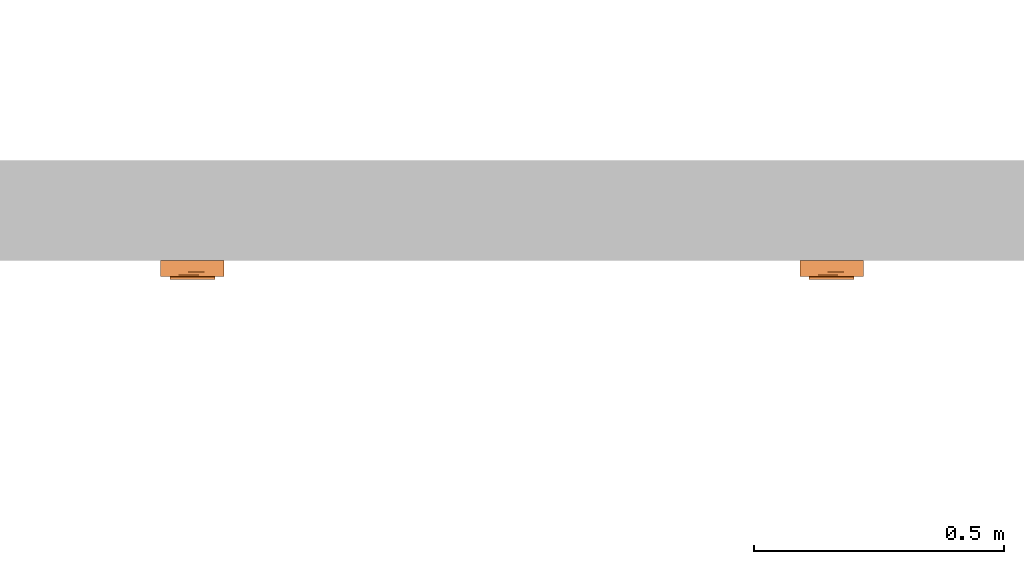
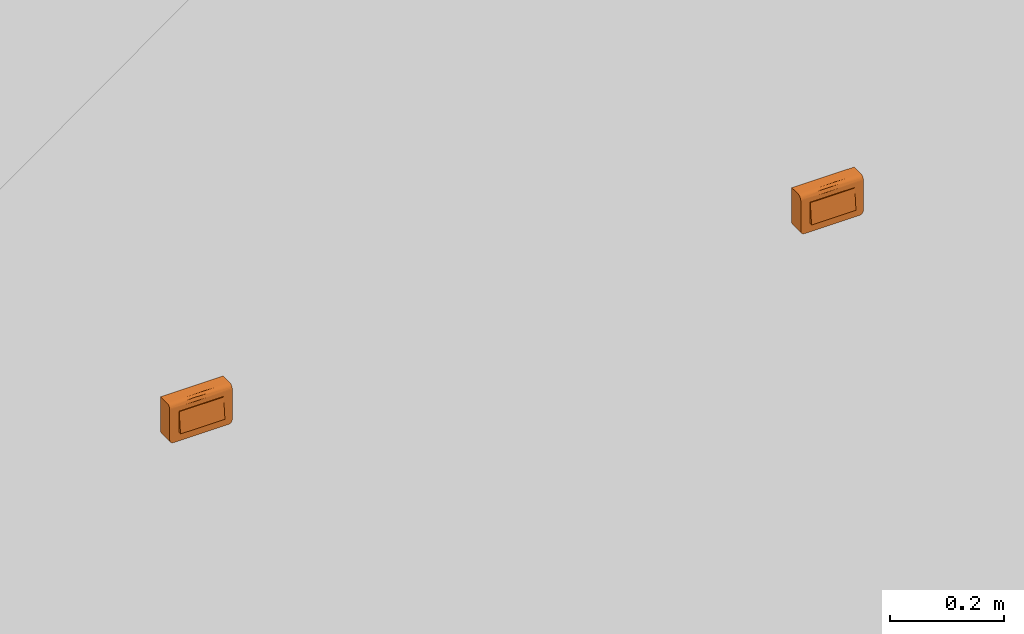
# One storey, part 138 of 197: 2 proxies.
"""IFC2X3 building model written with IfcOpenShell, lengths in metres."""

import ifcopenshell
import ifcopenshell.guid

model = None  # the IFC model being written
_history = None  # IfcOwnerHistory: only IFC2X3 demands one
_inside = {}  # id of a spatial element -> (the spatial element, [elements in it])
_under = {}  # id of a project, library or spatial element -> (it, [spatial elements below it])
_declared = {}  # id of a project -> (the project, [libraries it declares])
_typed = {}  # id of a type object -> (the type object, [elements of that type])
_made_of = {}  # id of a material, layer set ... -> (it, [elements and type objects made of it])


def new_model(schema):
    """Start an empty IFC model of exactly this schema.

    Asked for "IFC4X3", IfcOpenShell would pick the latest addendum, in which some entities
    have other attributes; the version numbers below select the first issue.
    IFC2X3 requires an IfcOwnerHistory on every rooted entity: one is made here for all.
    """
    global model, _history
    if schema == "IFC4X3":
        model = ifcopenshell.file(schema_version=(4, 3, 0, 0))
    else:
        model = ifcopenshell.file(schema=schema)
    _inside.clear()
    _under.clear()
    _declared.clear()
    _typed.clear()
    _made_of.clear()
    _history = None
    if model.schema == "IFC2X3":
        org = make("IfcOrganization", Name="unknown")
        user = make(
            "IfcPersonAndOrganization",
            ThePerson=make("IfcPerson", FamilyName="unknown"),
            TheOrganization=org,
        )
        app = make(
            "IfcApplication",
            ApplicationDeveloper=org,
            Version="unknown",
            ApplicationFullName="unknown",
            ApplicationIdentifier="unknown",
        )
        _history = make(
            "IfcOwnerHistory",
            OwningUser=user,
            OwningApplication=app,
            ChangeAction="ADDED",
            CreationDate=0,
        )
    return model


def make(cls, **values):
    """One entity of the class cls with the attributes given. An attribute that is None is left unset."""
    return model.create_entity(
        cls, **{name: value for name, value in values.items() if value is not None}
    )


def entity(cls, *values):
    """Any entity or typed value of the class cls, its attributes in the order of the schema. None: left unset."""
    e = model.create_entity(cls)
    for i, value in enumerate(values):
        if value is not None:
            e[i] = value
    return e


def rooted(cls, **values):
    """An entity with a GlobalId (a new one), such as an element, a storey or a relation."""
    return make(cls, GlobalId=ifcopenshell.guid.new(), OwnerHistory=_history, **values)


def si_unit(unit_type, name, prefix=None):
    """IfcSIUnit, for example si_unit("LENGTHUNIT", "METRE", prefix="MILLI")."""
    return make("IfcSIUnit", UnitType=unit_type, Prefix=prefix, Name=name)


def converted_unit(unit_type, name, factor, base, dimensions=None, offset=None):
    """IfcConversionBasedUnit, such as the inch: factor (a typed value) times the base unit."""
    return make(
        "IfcConversionBasedUnit"
        if offset is None
        else "IfcConversionBasedUnitWithOffset",
        ConversionOffset=offset,
        Dimensions=None
        if dimensions is None
        else entity("IfcDimensionalExponents", *dimensions),
        UnitType=unit_type,
        Name=name,
        ConversionFactor=make(
            "IfcMeasureWithUnit", ValueComponent=factor, UnitComponent=base
        ),
    )


def assignment(units):
    """IfcUnitAssignment: the units of a project."""
    return None if units is None else make("IfcUnitAssignment", Units=units)


def point(xyz):
    """IfcCartesianPoint."""
    return None if xyz is None else make("IfcCartesianPoint", Coordinates=xyz)


def direction(xyz):
    """IfcDirection."""
    return None if xyz is None else make("IfcDirection", DirectionRatios=xyz)


def frame(location, z_axis=None, x_axis=None):
    """IfcAxis2Placement3D, a coordinate frame: its origin and axes. An axis left out is left unset."""
    return make(
        "IfcAxis2Placement3D",
        Location=point(location),
        Axis=direction(z_axis),
        RefDirection=direction(x_axis),
    )


def origin():
    """The frame at (0, 0, 0) with its axes left unset."""
    return frame((0.0, 0.0, 0.0))


def place(relative_to, where):
    """IfcLocalPlacement: puts the frame where relative to a parent placement (None: the world)."""
    return make(
        "IfcLocalPlacement", PlacementRelTo=relative_to, RelativePlacement=where
    )


def context(
    kind, dimensions, precision=None, world=None, true_north=None, identifier=None
):
    """IfcGeometricRepresentationContext, for example the 3D "Model" context."""
    return make(
        "IfcGeometricRepresentationContext",
        ContextIdentifier=identifier,
        ContextType=kind,
        CoordinateSpaceDimension=dimensions,
        Precision=precision,
        WorldCoordinateSystem=world,
        TrueNorth=true_north,
    )


def subcontext(parent, identifier, kind, view, scale=None):
    """IfcGeometricRepresentationSubContext, for example "Body" below "Model"."""
    return make(
        "IfcGeometricRepresentationSubContext",
        ContextIdentifier=identifier,
        ContextType=kind,
        ParentContext=parent,
        TargetScale=scale,
        TargetView=view,
    )


def project(units=None, contexts=None):
    """IfcProject with its units and contexts."""
    return rooted(
        "IfcProject",
        Name="project",
        RepresentationContexts=contexts,
        UnitsInContext=assignment(units),
    )


def spatial(cls, under=None, at=None, **own):
    """A site, building, storey or space (cls), placed at a placement, below another one or the project."""
    s = rooted(cls, ObjectPlacement=at, **own)
    if under is not None:
        _under.setdefault(under.id(), (under, []))[1].append(s)
    return s


def faces_of(points, faces, orient=None, outer=None):
    """IfcFace entities. A face is a list of loops; a loop is a list of indices into points, from 0.

    orient and outer hold one flag for each loop. By default every Orientation is true, the
    first loop of a face is its IfcFaceOuterBound and the others are IfcFaceBound.
    """
    made = []
    for i, loops in enumerate(faces):
        bounds = []
        for j, loop in enumerate(loops):
            is_outer = j == 0 if outer is None else outer[i][j]
            bounds.append(
                make(
                    "IfcFaceOuterBound" if is_outer else "IfcFaceBound",
                    Bound=make("IfcPolyLoop", Polygon=[points[k] for k in loop]),
                    Orientation=True if orient is None else orient[i][j],
                )
            )
        made.append(make("IfcFace", Bounds=bounds))
    return made


def faceted_brep(points, faces, orient=None, outer=None, voids=None):
    """IfcFacetedBrep: a solid bounded by flat faces; with voids (closed shells), ...WithVoids."""
    shared = [point(p) for p in points]
    hull = make("IfcClosedShell", CfsFaces=faces_of(shared, faces, orient, outer))
    if voids is None:
        return make("IfcFacetedBrep", Outer=hull)
    return make(
        "IfcFacetedBrepWithVoids",
        Outer=hull,
        Voids=[
            make(cls, CfsFaces=faces_of(shared, fs, o, b)) for cls, fs, o, b in voids
        ],
    )


def shape(context_of_items, identifier, shape_type, items):
    """IfcShapeRepresentation: the items that make up one representation, for example the "Body"."""
    return make(
        "IfcShapeRepresentation",
        ContextOfItems=context_of_items,
        RepresentationIdentifier=identifier,
        RepresentationType=shape_type,
        Items=items,
    )


def source(mapping_origin, context_of_items, identifier, shape_type, items):
    """IfcRepresentationMap: a shape defined once, which mapped items show again and again."""
    return make(
        "IfcRepresentationMap",
        MappingOrigin=mapping_origin,
        MappedRepresentation=shape(context_of_items, identifier, shape_type, items),
    )


def transform(
    local_origin,
    x_axis=None,
    y_axis=None,
    z_axis=None,
    scale=None,
    scale2=None,
    scale3=None,
    uniform=True,
):
    """IfcCartesianTransformationOperator3D, or its non-uniform kind. x_axis, y_axis, z_axis: its Axis1, 2, 3."""
    if uniform:
        return make(
            "IfcCartesianTransformationOperator3D",
            Axis1=direction(x_axis),
            Axis2=direction(y_axis),
            LocalOrigin=point(local_origin),
            Scale=scale,
            Axis3=direction(z_axis),
        )
    return make(
        "IfcCartesianTransformationOperator3DnonUniform",
        Axis1=direction(x_axis),
        Axis2=direction(y_axis),
        LocalOrigin=point(local_origin),
        Scale=scale,
        Axis3=direction(z_axis),
        Scale2=scale2,
        Scale3=scale3,
    )


def mapped(mapping_source, mapping_target):
    """IfcMappedItem: shows the shape of a source again, moved by a transform."""
    return make(
        "IfcMappedItem", MappingSource=mapping_source, MappingTarget=mapping_target
    )


def material(Name=None, Category=None):
    """IfcMaterial."""
    return make("IfcMaterial", Name=Name, Category=Category)


def material_list(materials):
    """IfcMaterialList."""
    return make("IfcMaterialList", Materials=materials)


def made_of(thing, what):
    """Note that an element or type object is made of a material, layer set ...; save() writes the relation."""
    if what is not None:
        _made_of.setdefault(what.id(), (what, []))[1].append(thing)
    return thing


def type_object(cls, material=None, **own):
    """A type object (cls), such as IfcWallType, which elements share."""
    return made_of(rooted(cls, **own), material)


def type_shapes(of_type, sources):
    """Give a type object the sources (RepresentationMaps) that its elements show as mapped items."""
    of_type.RepresentationMaps = sources


def element(
    cls,
    number,
    at=None,
    inside=None,
    cuts=None,
    type_object=None,
    material=None,
    context=None,
    identifier="Body",
    shape_type=None,
    held_by="IfcProductDefinitionShape",
    body=None,
    shapes=None,
    **own,
):
    """One element of the class cls, such as IfcWall. Its Tag is "e" and its number.

    at: its placement. inside: the storey or other place that contains it. cuts: it is an
    opening in that element (IfcRelVoidsElement). A single representation is given by context,
    identifier, shape_type and body (its items); several are given by shapes. held_by: the class
    of the entity that holds the representations. save() writes the other relations.
    """
    e = rooted(cls, Tag="e%d" % number, ObjectPlacement=at, **own)
    if body is not None:
        shapes = [shape(context, identifier, shape_type, body)]
    if shapes is not None:
        e.Representation = make(held_by, Representations=shapes)
    if inside is not None:
        _inside.setdefault(inside.id(), (inside, []))[1].append(e)
    if cuts is not None:
        rooted(
            "IfcRelVoidsElement", RelatingBuildingElement=cuts, RelatedOpeningElement=e
        )
    if type_object is not None:
        _typed.setdefault(type_object.id(), (type_object, []))[1].append(e)
    return made_of(e, material)


def aggregate(whole, parts):
    """IfcRelAggregates: a whole, such as a stair, and the parts it consists of."""
    return rooted("IfcRelAggregates", RelatingObject=whole, RelatedObjects=parts)


def save(model, path):
    """Write the relations noted so far, then the file.

    IfcRelAggregates (storeys below a building ...), IfcRelContainedInSpatialStructure (elements
    in a storey), IfcRelDefinesByType, IfcRelAssociatesMaterial and IfcRelDeclares: one each for
    every whole, place, type object, material and project.
    """
    for whole, parts in _under.values():
        aggregate(whole, parts)
    for where, things in _inside.values():
        rooted(
            "IfcRelContainedInSpatialStructure",
            RelatedElements=things,
            RelatingStructure=where,
        )
    for kind, things in _typed.values():
        rooted("IfcRelDefinesByType", RelatedObjects=things, RelatingType=kind)
    for what, things in _made_of.values():
        rooted("IfcRelAssociatesMaterial", RelatedObjects=things, RelatingMaterial=what)
    for by, libraries in _declared.values():
        rooted("IfcRelDeclares", RelatingContext=by, RelatedDefinitions=libraries)
    model.write(path)


model = new_model("IFC2X3")

# Units and contexts
model_context = context("Model", 3, precision=1e-05, world=origin(), true_north=direction((6.123031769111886e-17, 1.0)))
body_context = subcontext(model_context, "Body", "Model", "MODEL_VIEW")
ifc_project = project(units=[si_unit("LENGTHUNIT", "METRE"), converted_unit("PLANEANGLEUNIT", "DEGREE", entity("IfcPlaneAngleMeasure", 0.017453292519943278), si_unit("PLANEANGLEUNIT", "RADIAN"), dimensions=[0, 0, 0, 0, 0, 0, 0]), si_unit("AREAUNIT", "SQUARE_METRE")], contexts=[model_context])

# Site, building, storey
site_placement = place(None, origin())
site = spatial("IfcSite", under=ifc_project, at=site_placement, Name="Default", CompositionType="ELEMENT")
building_placement = place(site_placement, origin())
building = spatial("IfcBuilding", under=site, at=building_placement, CompositionType="ELEMENT")
storey_placement = place(building_placement, origin())
storey = spatial("IfcBuildingStorey", under=building, at=storey_placement, Name="Niveau 0", CompositionType="ELEMENT", Elevation=0.0)

# Proxies
ifc_material_1 = material(Name="BETCE-DOIGT-BLANC")
ifc_material_2 = material(Name="BETCE-CADRE-BLANC")
ifc_material_3 = material(Name="BETCE-ENJOLIVEUR-BLANC")
ifc_material_list = material_list([ifc_material_1, ifc_material_2, ifc_material_3])
building_element_proxy_type_1 = type_object("IfcBuildingElementProxyType", Name="Tableau commande 1x4 modules saillie:1 SA + 1 VV + 2 BP", PredefinedType="NOTDEFINED", material=ifc_material_list)
shared_shape_1 = source(origin(), body_context, "Body", "Brep", [
    faceted_brep([(-0.04499999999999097, -0.03350000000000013, 0.022499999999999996), (-0.04499999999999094, -0.038000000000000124, -0.022500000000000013), (-0.022500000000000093, -0.03799999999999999, -0.02249999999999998), (-0.02250000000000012, -0.0335, 0.022499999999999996), (-0.04499999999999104, -0.02299999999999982, -0.022500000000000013), (-0.04499999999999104, -0.02299999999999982, 0.022499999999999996), (-0.022500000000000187, -0.022999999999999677, 0.022499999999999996), (-0.022500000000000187, -0.022999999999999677, -0.022500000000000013)], [[[0, 1, 2, 3]], [[4, 5, 6, 7]], [[5, 4, 1, 0]], [[6, 5, 0, 3]], [[7, 6, 3, 2]], [[4, 7, 2, 1]]]),
    faceted_brep([(0.02250000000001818, -0.03349999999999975, 0.022499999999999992), (0.02250000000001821, -0.03799999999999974, -0.022500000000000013), (0.04500000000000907, -0.03799999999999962, -0.02250000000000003), (0.04500000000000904, -0.03349999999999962, 0.022499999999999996), (0.022500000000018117, -0.02299999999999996, -0.022500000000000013), (0.022500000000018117, -0.02299999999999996, 0.022499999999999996), (0.04500000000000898, -0.022999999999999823, 0.022499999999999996), (0.04500000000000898, -0.022999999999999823, -0.022500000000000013)], [[[0, 1, 2, 3]], [[4, 5, 6, 7]], [[5, 4, 1, 0]], [[6, 5, 0, 3]], [[7, 6, 3, 2]], [[4, 7, 2, 1]]]),
    faceted_brep([(0.0, -0.03349999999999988, 0.022499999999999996), (0.0, -0.03799999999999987, -0.022500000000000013), (0.022499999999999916, -0.03799999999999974, -0.022500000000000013), (0.022499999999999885, -0.03349999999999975, 0.022499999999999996), (0.0, -0.02299999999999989, -0.022500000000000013), (0.0, -0.02299999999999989, 0.022499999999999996), (0.022499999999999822, -0.02299999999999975, 0.022499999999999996), (0.022499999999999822, -0.02299999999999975, -0.022500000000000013)], [[[0, 1, 2, 3]], [[4, 5, 6, 7]], [[5, 4, 1, 0]], [[6, 5, 0, 3]], [[7, 6, 3, 2]], [[4, 7, 2, 1]]]),
    faceted_brep([(0.05550000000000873, -0.02299999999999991, -0.041000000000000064), (0.05757055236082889, -0.0229999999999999, -0.04072740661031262), (0.05950000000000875, -0.022999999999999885, -0.03992820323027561), (0.06115685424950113, -0.022999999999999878, -0.03865685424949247), (0.06242820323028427, -0.022999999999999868, -0.03700000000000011), (0.06322740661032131, -0.022999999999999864, -0.03507055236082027), (0.063500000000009, -0.02299999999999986, -0.033000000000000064), (0.06350000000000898, -0.02299999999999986, 0.04092306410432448), (-0.06349999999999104, -0.023000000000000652, 0.04092306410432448), (-0.06349999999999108, -0.023000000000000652, -0.032999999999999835), (-0.06322740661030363, -0.023000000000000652, -0.03507055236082), (-0.06242820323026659, -0.02300000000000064, -0.03699999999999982), (-0.06115685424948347, -0.023000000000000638, -0.0386568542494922), (-0.05949999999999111, -0.023000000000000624, -0.03992820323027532), (-0.05757055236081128, -0.023000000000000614, -0.040727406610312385), (-0.05549999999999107, -0.0230000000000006, -0.040999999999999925), (-0.05549999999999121, 0.0, -0.04099999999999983), (-0.05757055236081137, 0.0, -0.040727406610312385), (-0.05949999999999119, 0.0, -0.03992820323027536), (-0.061156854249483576, 0.0, -0.03865685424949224), (-0.06242820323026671, 0.0, -0.03699999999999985), (-0.06322740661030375, 0.0, -0.03507055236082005), (-0.06349999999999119, 0.0, -0.032999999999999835), (-0.06349999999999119, 0.0, 0.04092306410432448), (0.06350000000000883, 0.0, 0.04092306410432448), (0.06350000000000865, 0.0, -0.033), (0.0632274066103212, 0.0, -0.03507055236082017), (0.062428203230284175, 0.0, -0.037000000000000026), (0.06115685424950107, 0.0, -0.0386568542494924), (0.059500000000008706, 0.0, -0.039928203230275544), (0.05757055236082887, 0.0, -0.040727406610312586), (0.055500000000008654, 0.0, -0.040999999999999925)], [[[0, 1, 2, 3, 4, 5, 6, 7, 8, 9, 10, 11, 12, 13, 14, 15]], [[16, 17, 18, 19, 20, 21, 22, 23, 24, 25, 26, 27, 28, 29, 30, 31]], [[9, 8, 23, 22]], [[0, 15, 16, 31]], [[7, 6, 25, 24]], [[8, 7, 24, 23]], [[25, 6, 5, 26]], [[26, 5, 4, 27]], [[27, 4, 3, 28]], [[29, 2, 1, 30]], [[30, 1, 0, 31]], [[28, 3, 2, 29]], [[17, 16, 15, 14]], [[18, 17, 14, 13]], [[19, 18, 13, 12]], [[20, 19, 12, 11]], [[21, 20, 11, 10]], [[22, 21, 10, 9]]]),
    faceted_brep([(-0.022500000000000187, -0.02299999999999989, -0.022500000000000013), (-0.022500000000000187, -0.02299999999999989, 0.022499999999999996), (0.0, -0.02299999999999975, 0.022499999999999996), (0.0, -0.02299999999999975, -0.022500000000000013), (-0.022500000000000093, -0.03799999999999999, -0.0225), (-0.02250000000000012, -0.0335, 0.022499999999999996), (0.0, -0.03349999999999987, 0.022499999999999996), (0.0, -0.037999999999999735, -0.022500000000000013)], [[[0, 1, 2, 3]], [[1, 0, 4, 5]], [[2, 1, 5, 6]], [[3, 2, 6, 7]], [[0, 3, 7, 4]], [[5, 4, 7, 6]]]),
    faceted_brep([(0.06350000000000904, -0.031999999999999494, -0.03299999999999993), (0.06350000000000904, -0.031999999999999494, 0.0319999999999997), (0.04500000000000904, -0.031999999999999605, -0.022500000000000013), (0.05550000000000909, -0.03199999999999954, -0.040999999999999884), (0.05757055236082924, -0.03199999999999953, -0.040727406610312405), (0.05950000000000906, -0.03199999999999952, -0.039928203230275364), (0.06115685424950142, -0.03199999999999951, -0.038656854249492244), (0.06322740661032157, -0.031999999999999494, -0.03507055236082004), (0.04500000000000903, -0.031999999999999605, 0.022499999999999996), (-0.04499999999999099, -0.03200000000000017, 0.022499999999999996), (-0.011124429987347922, -0.032000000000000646, 0.031999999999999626), (-0.06349999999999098, -0.032000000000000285, 0.0319999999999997), (-0.04499999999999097, -0.03200000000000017, -0.022500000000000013), (-0.06349999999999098, -0.032000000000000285, -0.032999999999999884), (-0.05549999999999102, -0.03200000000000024, -0.040999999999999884), (-0.057570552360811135, -0.032000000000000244, -0.04072740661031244), (-0.05949999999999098, -0.03200000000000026, -0.0399282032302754), (-0.061156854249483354, -0.032000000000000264, -0.03865685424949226), (-0.06322740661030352, -0.03200000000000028, -0.03507055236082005), (-0.06242820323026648, -0.03200000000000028, -0.03699999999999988), (0.06242820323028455, -0.0319999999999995, -0.03699999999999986), (-0.06349999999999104, -0.023000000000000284, -0.032999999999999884), (-0.06349999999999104, -0.023000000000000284, 0.041000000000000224), (-0.04499999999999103, -0.023000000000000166, 0.022499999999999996), (-0.04499999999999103, -0.023000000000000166, -0.022500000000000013), (-0.05549999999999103, -0.023000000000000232, -0.040999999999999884), (-0.0575705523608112, -0.023000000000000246, -0.04072740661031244), (-0.059499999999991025, -0.023000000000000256, -0.0399282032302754), (-0.06322740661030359, -0.02300000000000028, -0.03507055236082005), (0.04500000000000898, -0.022999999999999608, 0.022499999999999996), (0.011124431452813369, -0.02299999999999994, 0.041000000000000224), (0.06350000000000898, -0.022999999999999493, 0.041000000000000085), (0.06350000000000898, -0.022999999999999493, -0.032999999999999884), (0.04500000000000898, -0.022999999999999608, -0.022500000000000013), (0.055500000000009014, -0.02299999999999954, -0.040999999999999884), (0.05757055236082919, -0.02299999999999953, -0.040727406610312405), (0.059500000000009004, -0.022999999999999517, -0.039928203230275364), (0.06322740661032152, -0.022999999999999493, -0.03507055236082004), (0.061156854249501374, -0.022999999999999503, -0.038656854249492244), (0.06242820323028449, -0.022999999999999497, -0.03699999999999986), (-0.0611568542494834, -0.023000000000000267, -0.03865685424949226), (-0.062428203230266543, -0.023000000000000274, -0.03699999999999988), (0.063500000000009, -0.02532937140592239, 0.04069333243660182), (0.06350000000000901, -0.027499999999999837, 0.039794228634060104), (0.06350000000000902, -0.029363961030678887, 0.03836396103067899), (0.06350000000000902, -0.030794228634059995, 0.03649999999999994), (0.06350000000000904, -0.03169333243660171, 0.03432937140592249), (-0.06349999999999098, -0.03169333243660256, 0.034329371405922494), (-0.063499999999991, -0.030794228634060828, 0.03649999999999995), (-0.063499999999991, -0.029363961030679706, 0.03836396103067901), (-0.06349999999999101, -0.027500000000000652, 0.039794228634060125), (-0.06349999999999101, -0.025329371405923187, 0.04069333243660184), (-0.010857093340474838, -0.02912089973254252, 0.03859807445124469)], [[[0, 1, 2]], [[3, 0, 2]], [[0, 3, 4]], [[0, 4, 5]], [[5, 6, 0]], [[7, 0, 6]], [[2, 1, 8]], [[1, 9, 8]], [[9, 1, 10]], [[9, 10, 11]], [[12, 9, 11]], [[13, 12, 11]], [[14, 12, 13]], [[14, 13, 15]], [[16, 15, 13]], [[13, 17, 16]], [[17, 13, 18]], [[17, 18, 19]], [[12, 14, 3]], [[2, 12, 3]], [[20, 7, 6]], [[21, 22, 23]], [[24, 21, 23]], [[25, 21, 24]], [[21, 25, 26]], [[21, 26, 27]], [[28, 21, 27]], [[22, 29, 23]], [[29, 22, 30]], [[29, 30, 31]], [[32, 29, 31]], [[33, 29, 32]], [[34, 33, 32]], [[34, 32, 35]], [[36, 35, 32]], [[36, 32, 37]], [[37, 38, 36]], [[38, 37, 39]], [[33, 34, 25]], [[24, 33, 25]], [[27, 40, 28]], [[41, 28, 40]], [[1, 0, 32, 31, 42, 43, 44, 45, 46]], [[37, 32, 0, 7]], [[39, 37, 7, 20]], [[38, 39, 20, 6]], [[36, 38, 6, 5]], [[35, 36, 5, 4]], [[34, 35, 4, 3]], [[25, 34, 3, 14]], [[26, 25, 14, 15]], [[27, 26, 15, 16]], [[40, 27, 16, 17]], [[41, 40, 17, 19]], [[28, 41, 19, 18]], [[21, 28, 18, 13]], [[22, 21, 13, 11, 47, 48, 49, 50, 51]], [[52, 10, 45]], [[47, 11, 10]], [[1, 46, 10]], [[44, 52, 45]], [[46, 45, 10]], [[50, 52, 51]], [[48, 47, 10]], [[30, 52, 43]], [[48, 52, 49]], [[42, 31, 30]], [[30, 22, 51]], [[48, 10, 52]], [[30, 43, 42]], [[44, 43, 52]], [[52, 50, 49]], [[52, 30, 51]], [[24, 23, 9, 12]], [[33, 24, 12, 2]], [[29, 33, 2, 8]], [[23, 29, 8, 9]]]),
])
type_shapes(building_element_proxy_type_1, [shared_shape_1])
proxy_1_placement = place(storey_placement, frame((-379.83077966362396, 116.01635778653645, 1.1)))
element("IfcBuildingElementProxy", 1, at=proxy_1_placement, inside=storey, type_object=building_element_proxy_type_1, material=ifc_material_list, Name="Tableau commande 1x4 modules saillie:1 SA + 1 VV + 2 BP", ObjectType="Tableau commande 1x4 modules saillie:1 SA + 1 VV + 2 BP", context=body_context, shape_type="MappedRepresentation", body=[
    mapped(shared_shape_1, transform((0.0, 0.0, 0.0), scale=1.0)),
])
building_element_proxy_type_2 = type_object("IfcBuildingElementProxyType", Name="Tableau commande 1x4 modules saillie:1 SA + 3 BP", PredefinedType="NOTDEFINED", material=ifc_material_list)
shared_shape_2 = source(origin(), body_context, "Body", "Brep", [
    faceted_brep([(-0.04499999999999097, -0.03350000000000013, 0.022499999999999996), (-0.04499999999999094, -0.038000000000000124, -0.022500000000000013), (-0.022500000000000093, -0.03799999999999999, -0.02249999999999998), (-0.02250000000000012, -0.0335, 0.022499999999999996), (-0.04499999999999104, -0.02299999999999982, -0.022500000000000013), (-0.04499999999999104, -0.02299999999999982, 0.022499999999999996), (-0.022500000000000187, -0.022999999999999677, 0.022499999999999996), (-0.022500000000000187, -0.022999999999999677, -0.022500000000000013)], [[[0, 1, 2, 3]], [[4, 5, 6, 7]], [[5, 4, 1, 0]], [[6, 5, 0, 3]], [[7, 6, 3, 2]], [[4, 7, 2, 1]]]),
    faceted_brep([(0.02250000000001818, -0.03349999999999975, 0.022499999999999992), (0.02250000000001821, -0.03799999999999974, -0.022500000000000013), (0.04500000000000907, -0.03799999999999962, -0.02250000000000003), (0.04500000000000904, -0.03349999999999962, 0.022499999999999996), (0.022500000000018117, -0.02299999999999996, -0.022500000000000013), (0.022500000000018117, -0.02299999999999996, 0.022499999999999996), (0.04500000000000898, -0.022999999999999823, 0.022499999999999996), (0.04500000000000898, -0.022999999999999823, -0.022500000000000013)], [[[0, 1, 2, 3]], [[4, 5, 6, 7]], [[5, 4, 1, 0]], [[6, 5, 0, 3]], [[7, 6, 3, 2]], [[4, 7, 2, 1]]]),
    faceted_brep([(0.0, -0.03349999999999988, 0.022499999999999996), (0.0, -0.03799999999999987, -0.022500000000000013), (0.022499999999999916, -0.03799999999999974, -0.022500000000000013), (0.022499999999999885, -0.03349999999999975, 0.022499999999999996), (0.0, -0.02299999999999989, -0.022500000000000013), (0.0, -0.02299999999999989, 0.022499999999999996), (0.022499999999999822, -0.02299999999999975, 0.022499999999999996), (0.022499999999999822, -0.02299999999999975, -0.022500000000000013)], [[[0, 1, 2, 3]], [[4, 5, 6, 7]], [[5, 4, 1, 0]], [[6, 5, 0, 3]], [[7, 6, 3, 2]], [[4, 7, 2, 1]]]),
    faceted_brep([(0.05550000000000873, -0.02299999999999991, -0.041000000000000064), (0.05757055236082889, -0.0229999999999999, -0.04072740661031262), (0.05950000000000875, -0.022999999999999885, -0.03992820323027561), (0.06115685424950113, -0.022999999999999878, -0.03865685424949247), (0.06242820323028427, -0.022999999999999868, -0.03700000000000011), (0.06322740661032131, -0.022999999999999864, -0.03507055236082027), (0.063500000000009, -0.02299999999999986, -0.033000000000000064), (0.06350000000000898, -0.02299999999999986, 0.04092306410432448), (-0.06349999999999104, -0.023000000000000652, 0.04092306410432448), (-0.06349999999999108, -0.023000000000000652, -0.032999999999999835), (-0.06322740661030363, -0.023000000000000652, -0.03507055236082), (-0.06242820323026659, -0.02300000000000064, -0.03699999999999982), (-0.06115685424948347, -0.023000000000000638, -0.0386568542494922), (-0.05949999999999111, -0.023000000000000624, -0.03992820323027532), (-0.05757055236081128, -0.023000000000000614, -0.040727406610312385), (-0.05549999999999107, -0.0230000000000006, -0.040999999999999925), (-0.05549999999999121, 0.0, -0.04099999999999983), (-0.05757055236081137, 0.0, -0.040727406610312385), (-0.05949999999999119, 0.0, -0.03992820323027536), (-0.061156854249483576, 0.0, -0.03865685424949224), (-0.06242820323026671, 0.0, -0.03699999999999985), (-0.06322740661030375, 0.0, -0.03507055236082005), (-0.06349999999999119, 0.0, -0.032999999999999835), (-0.06349999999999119, 0.0, 0.04092306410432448), (0.06350000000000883, 0.0, 0.04092306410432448), (0.06350000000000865, 0.0, -0.033), (0.0632274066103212, 0.0, -0.03507055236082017), (0.062428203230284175, 0.0, -0.037000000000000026), (0.06115685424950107, 0.0, -0.0386568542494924), (0.059500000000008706, 0.0, -0.039928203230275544), (0.05757055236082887, 0.0, -0.040727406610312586), (0.055500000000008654, 0.0, -0.040999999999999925)], [[[0, 1, 2, 3, 4, 5, 6, 7, 8, 9, 10, 11, 12, 13, 14, 15]], [[16, 17, 18, 19, 20, 21, 22, 23, 24, 25, 26, 27, 28, 29, 30, 31]], [[9, 8, 23, 22]], [[0, 15, 16, 31]], [[7, 6, 25, 24]], [[8, 7, 24, 23]], [[25, 6, 5, 26]], [[26, 5, 4, 27]], [[27, 4, 3, 28]], [[29, 2, 1, 30]], [[30, 1, 0, 31]], [[28, 3, 2, 29]], [[17, 16, 15, 14]], [[18, 17, 14, 13]], [[19, 18, 13, 12]], [[20, 19, 12, 11]], [[21, 20, 11, 10]], [[22, 21, 10, 9]]]),
    faceted_brep([(-0.022500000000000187, -0.02299999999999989, -0.022500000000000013), (-0.022500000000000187, -0.02299999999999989, 0.022499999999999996), (0.0, -0.02299999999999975, 0.022499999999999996), (0.0, -0.02299999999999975, -0.022500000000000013), (-0.022500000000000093, -0.03799999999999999, -0.0225), (-0.02250000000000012, -0.0335, 0.022499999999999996), (0.0, -0.03349999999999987, 0.022499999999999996), (0.0, -0.037999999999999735, -0.022500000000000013)], [[[0, 1, 2, 3]], [[1, 0, 4, 5]], [[2, 1, 5, 6]], [[3, 2, 6, 7]], [[0, 3, 7, 4]], [[5, 4, 7, 6]]]),
    faceted_brep([(0.06350000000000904, -0.031999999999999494, -0.03299999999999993), (0.06350000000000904, -0.031999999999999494, 0.0319999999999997), (0.04500000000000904, -0.031999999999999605, -0.022500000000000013), (0.05550000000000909, -0.03199999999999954, -0.040999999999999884), (0.05757055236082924, -0.03199999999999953, -0.040727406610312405), (0.05950000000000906, -0.03199999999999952, -0.039928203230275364), (0.06115685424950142, -0.03199999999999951, -0.038656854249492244), (0.06322740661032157, -0.031999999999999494, -0.03507055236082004), (0.04500000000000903, -0.031999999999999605, 0.022499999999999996), (-0.04499999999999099, -0.03200000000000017, 0.022499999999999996), (-0.011124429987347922, -0.032000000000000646, 0.031999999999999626), (-0.06349999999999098, -0.032000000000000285, 0.0319999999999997), (-0.04499999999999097, -0.03200000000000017, -0.022500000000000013), (-0.06349999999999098, -0.032000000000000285, -0.032999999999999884), (-0.05549999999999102, -0.03200000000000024, -0.040999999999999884), (-0.057570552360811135, -0.032000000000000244, -0.04072740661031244), (-0.05949999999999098, -0.03200000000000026, -0.0399282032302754), (-0.061156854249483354, -0.032000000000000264, -0.03865685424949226), (-0.06322740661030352, -0.03200000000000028, -0.03507055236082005), (-0.06242820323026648, -0.03200000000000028, -0.03699999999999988), (0.06242820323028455, -0.0319999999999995, -0.03699999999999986), (-0.06349999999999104, -0.023000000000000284, -0.032999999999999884), (-0.06349999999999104, -0.023000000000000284, 0.041000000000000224), (-0.04499999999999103, -0.023000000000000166, 0.022499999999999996), (-0.04499999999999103, -0.023000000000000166, -0.022500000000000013), (-0.05549999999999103, -0.023000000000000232, -0.040999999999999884), (-0.0575705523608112, -0.023000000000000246, -0.04072740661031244), (-0.059499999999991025, -0.023000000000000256, -0.0399282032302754), (-0.06322740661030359, -0.02300000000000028, -0.03507055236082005), (0.04500000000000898, -0.022999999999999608, 0.022499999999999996), (0.011124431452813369, -0.02299999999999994, 0.041000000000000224), (0.06350000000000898, -0.022999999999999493, 0.041000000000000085), (0.06350000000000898, -0.022999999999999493, -0.032999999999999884), (0.04500000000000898, -0.022999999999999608, -0.022500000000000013), (0.055500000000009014, -0.02299999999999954, -0.040999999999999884), (0.05757055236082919, -0.02299999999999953, -0.040727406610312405), (0.059500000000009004, -0.022999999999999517, -0.039928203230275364), (0.06322740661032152, -0.022999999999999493, -0.03507055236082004), (0.061156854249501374, -0.022999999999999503, -0.038656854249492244), (0.06242820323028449, -0.022999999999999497, -0.03699999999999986), (-0.0611568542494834, -0.023000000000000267, -0.03865685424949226), (-0.062428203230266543, -0.023000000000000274, -0.03699999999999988), (0.063500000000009, -0.02532937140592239, 0.04069333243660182), (0.06350000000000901, -0.027499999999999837, 0.039794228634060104), (0.06350000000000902, -0.029363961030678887, 0.03836396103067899), (0.06350000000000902, -0.030794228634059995, 0.03649999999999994), (0.06350000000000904, -0.03169333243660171, 0.03432937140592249), (-0.06349999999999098, -0.03169333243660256, 0.034329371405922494), (-0.063499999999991, -0.030794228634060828, 0.03649999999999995), (-0.063499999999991, -0.029363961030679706, 0.03836396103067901), (-0.06349999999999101, -0.027500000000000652, 0.039794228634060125), (-0.06349999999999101, -0.025329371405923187, 0.04069333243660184), (-0.010857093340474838, -0.02912089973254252, 0.03859807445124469)], [[[0, 1, 2]], [[3, 0, 2]], [[0, 3, 4]], [[0, 4, 5]], [[5, 6, 0]], [[7, 0, 6]], [[2, 1, 8]], [[1, 9, 8]], [[9, 1, 10]], [[9, 10, 11]], [[12, 9, 11]], [[13, 12, 11]], [[14, 12, 13]], [[14, 13, 15]], [[16, 15, 13]], [[13, 17, 16]], [[17, 13, 18]], [[17, 18, 19]], [[12, 14, 3]], [[2, 12, 3]], [[20, 7, 6]], [[21, 22, 23]], [[24, 21, 23]], [[25, 21, 24]], [[21, 25, 26]], [[21, 26, 27]], [[28, 21, 27]], [[22, 29, 23]], [[29, 22, 30]], [[29, 30, 31]], [[32, 29, 31]], [[33, 29, 32]], [[34, 33, 32]], [[34, 32, 35]], [[36, 35, 32]], [[36, 32, 37]], [[37, 38, 36]], [[38, 37, 39]], [[33, 34, 25]], [[24, 33, 25]], [[27, 40, 28]], [[41, 28, 40]], [[1, 0, 32, 31, 42, 43, 44, 45, 46]], [[37, 32, 0, 7]], [[39, 37, 7, 20]], [[38, 39, 20, 6]], [[36, 38, 6, 5]], [[35, 36, 5, 4]], [[34, 35, 4, 3]], [[25, 34, 3, 14]], [[26, 25, 14, 15]], [[27, 26, 15, 16]], [[40, 27, 16, 17]], [[41, 40, 17, 19]], [[28, 41, 19, 18]], [[21, 28, 18, 13]], [[22, 21, 13, 11, 47, 48, 49, 50, 51]], [[52, 10, 45]], [[47, 11, 10]], [[1, 46, 10]], [[44, 52, 45]], [[46, 45, 10]], [[50, 52, 51]], [[48, 47, 10]], [[30, 52, 43]], [[48, 52, 49]], [[42, 31, 30]], [[30, 22, 51]], [[48, 10, 52]], [[30, 43, 42]], [[44, 43, 52]], [[52, 50, 49]], [[52, 30, 51]], [[24, 23, 9, 12]], [[33, 24, 12, 2]], [[29, 33, 2, 8]], [[23, 29, 8, 9]]]),
])
type_shapes(building_element_proxy_type_2, [shared_shape_2])
proxy_2_placement = place(storey_placement, frame((-378.55177966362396, 116.01635778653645, 1.1)))
element("IfcBuildingElementProxy", 2, at=proxy_2_placement, inside=storey, type_object=building_element_proxy_type_2, material=ifc_material_list, Name="Tableau commande 1x4 modules saillie:1 SA + 3 BP", ObjectType="Tableau commande 1x4 modules saillie:1 SA + 3 BP", context=body_context, shape_type="MappedRepresentation", body=[
    mapped(shared_shape_2, transform((0.0, 0.0, 0.0), scale=1.0)),
])

save(model, "model.ifc")
